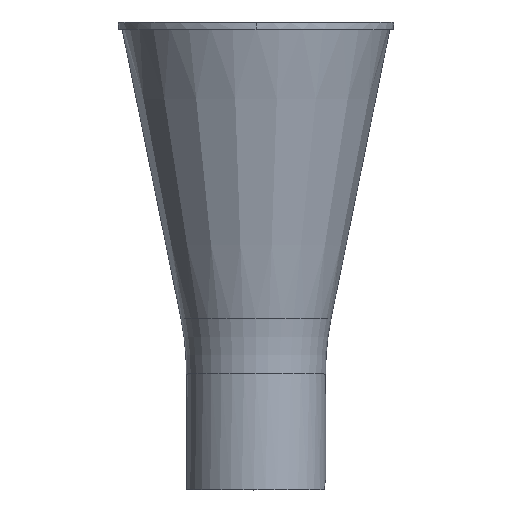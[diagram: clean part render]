
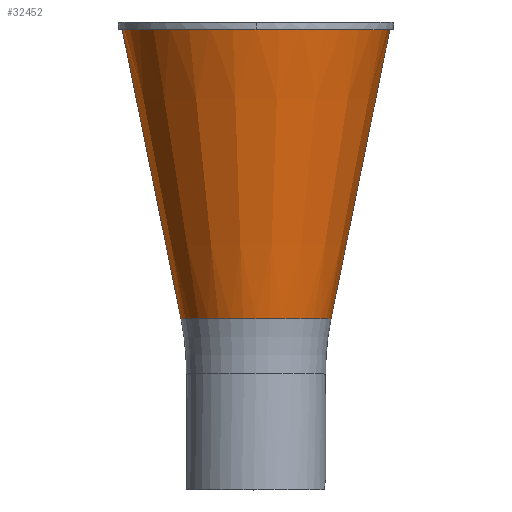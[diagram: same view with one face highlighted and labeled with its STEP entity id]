
A CAD part, top view. The second image highlights one B-rep face of the part: STEP entity #32452.
In plain terms, the highlighted conical face has half-angle 11.472 degrees and reference radius 145 mm.
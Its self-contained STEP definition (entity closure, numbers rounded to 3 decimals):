
#1312 = AXIS2_PLACEMENT_3D ( 'NONE', #35625, #7295, #23604 ) ;
#1693 = DIRECTION ( 'NONE',  ( 0., 1., 0. ) ) ;
#1788 = LINE ( 'NONE', #14334, #10564 ) ;
#4380 = CARTESIAN_POINT ( 'NONE',  ( -145., 500., 0. ) ) ;
#4946 = AXIS2_PLACEMENT_3D ( 'NONE', #7990, #36716, #17202 ) ;
#6450 = DIRECTION ( 'NONE',  ( -0.199, 0.98, 0. ) ) ;
#7295 = DIRECTION ( 'NONE',  ( 0., 1., 0. ) ) ;
#7738 = EDGE_CURVE ( 'NONE', #23146, #28947, #1788, .T. ) ;
#7990 = CARTESIAN_POINT ( 'NONE',  ( 0., 500., 0. ) ) ;
#9633 = CARTESIAN_POINT ( 'NONE',  ( -145., 500., 0. ) ) ;
#10317 = CONICAL_SURFACE ( 'NONE', #4946, 145., 0.2 ) ;
#10462 = EDGE_CURVE ( 'NONE', #36662, #23146, #38791, .T. ) ;
#10564 = VECTOR ( 'NONE', #11224, 1000. ) ;
#11066 = CIRCLE ( 'NONE', #34499, 145. ) ;
#11224 = DIRECTION ( 'NONE',  ( 0.199, 0.98, 0. ) ) ;
#12424 = CARTESIAN_POINT ( 'NONE',  ( 145., 500., 0. ) ) ;
#13090 = VECTOR ( 'NONE', #6450, 1000. ) ;
#14334 = CARTESIAN_POINT ( 'NONE',  ( 145., 500., 0. ) ) ;
#14448 = DIRECTION ( 'NONE',  ( -1., 0., 0. ) ) ;
#14686 = FACE_OUTER_BOUND ( 'NONE', #36801, .T. ) ;
#14942 = ORIENTED_EDGE ( 'NONE', *, *, #15254, .F. ) ;
#15254 = EDGE_CURVE ( 'NONE', #32840, #28947, #11066, .T. ) ;
#17202 = DIRECTION ( 'NONE',  ( -1., 0., 0. ) ) ;
#18142 = CARTESIAN_POINT ( 'NONE',  ( -80.993, 184.604, 0. ) ) ;
#19630 = CARTESIAN_POINT ( 'NONE',  ( 80.993, 184.604, 0. ) ) ;
#20796 = EDGE_CURVE ( 'NONE', #36662, #32840, #32031, .T. ) ;
#23146 = VERTEX_POINT ( 'NONE', #19630 ) ;
#23604 = DIRECTION ( 'NONE',  ( -1., 0., 0. ) ) ;
#24226 = ORIENTED_EDGE ( 'NONE', *, *, #20796, .F. ) ;
#28947 = VERTEX_POINT ( 'NONE', #12424 ) ;
#32031 = LINE ( 'NONE', #9633, #13090 ) ;
#32452 = ADVANCED_FACE ( 'NONE', ( #14686 ), #10317, .T. ) ;
#32840 = VERTEX_POINT ( 'NONE', #4380 ) ;
#34499 = AXIS2_PLACEMENT_3D ( 'NONE', #34592, #1693, #14448 ) ;
#34592 = CARTESIAN_POINT ( 'NONE',  ( 0., 500., 0. ) ) ;
#34735 = ORIENTED_EDGE ( 'NONE', *, *, #10462, .T. ) ;
#35625 = CARTESIAN_POINT ( 'NONE',  ( 0., 184.604, 0. ) ) ;
#36662 = VERTEX_POINT ( 'NONE', #18142 ) ;
#36716 = DIRECTION ( 'NONE',  ( 0., 1., 0. ) ) ;
#36801 = EDGE_LOOP ( 'NONE', ( #34735, #40035, #14942, #24226 ) ) ;
#38791 = CIRCLE ( 'NONE', #1312, 80.993 ) ;
#40035 = ORIENTED_EDGE ( 'NONE', *, *, #7738, .T. ) ;
